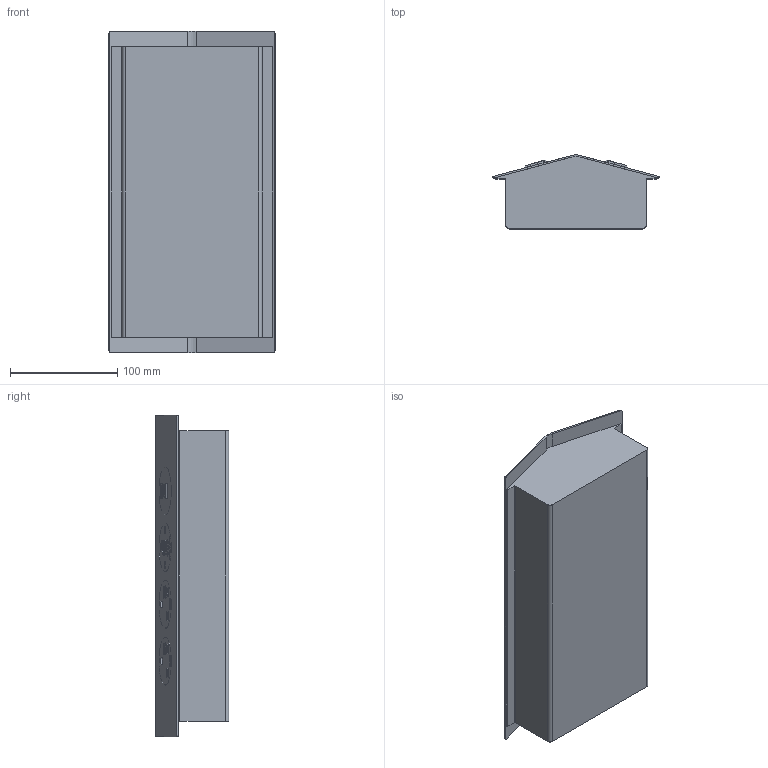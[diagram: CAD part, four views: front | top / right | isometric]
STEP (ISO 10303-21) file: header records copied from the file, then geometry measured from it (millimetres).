
FILE_DESCRIPTION((''),'2;1');
FILE_NAME('P:\Manufacturing\Autocad drawings\Inventor\blocks\Peak - blocks\Peak 1005.stp','2017-07-03T14:59:55',('Jamie.clark'),(''),'Autodesk Inventor 2012','Autodesk Inventor 2012','');
FILE_SCHEMA(('AUTOMOTIVE_DESIGN { 1 0 10303 214 1 1 1 1 }'));
Length unit declared in the file: millimetre
Products named in the file (9): Peak 1005; Peak Block; new-skt-round_Shrinkwrap_2; 42Dia fascia - single keystone - 7004; 42Dia fascia - single keystone - 7004_CPY; inline-coupler-block; 42 Dia fascia TUF-R with screw hole derived; Snake eye screw; Keystone Adaptor - block
Assembly tree (17 placements, depth 2):
  Peak 1005
    Peak Block
    new-skt-round_Shrinkwrap_2  x4
    42Dia fascia - single keystone - 7004
    42Dia fascia - single keystone - 7004_CPY
    inline-coupler-block  x2
    42 Dia fascia TUF-R with screw hole derived  x2
    Snake eye screw  x4
    Keystone Adaptor - block  x2
Bounding box: 155.32 x 68.7 x 300 mm (x, y, z)
Volume: 2191143 mm3; surface area: 174980.2 mm2
Topology: 25 solids, 25 shells, 2642 faces, 6882 edges, 4464 vertices
Faces by surface type: plane 1655, bspline 572, cylinder 329, cone 54, torus 24, sphere 8
Full cylindrical faces by diameter (mm): 1.2 x8, 5.5 x4, 6.6 x4, 45.2 x8
Entity records: 37278 total; most frequent: CARTESIAN_POINT 12223, ORIENTED_EDGE 5418, DIRECTION 4427, EDGE_CURVE 2709, VECTOR 2029, LINE 2029, VERTEX_POINT 1786, AXIS2_PLACEMENT_3D 1199
